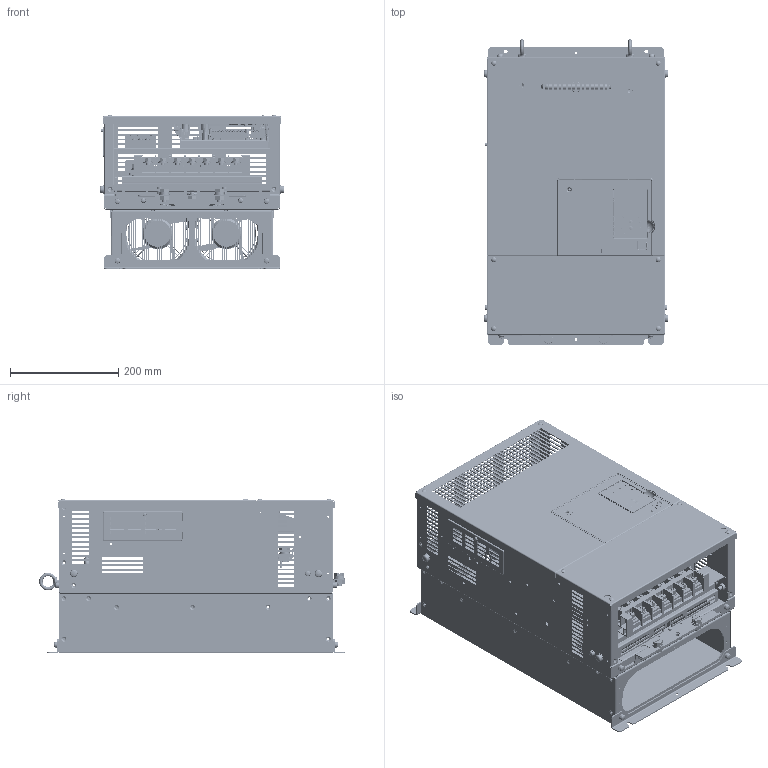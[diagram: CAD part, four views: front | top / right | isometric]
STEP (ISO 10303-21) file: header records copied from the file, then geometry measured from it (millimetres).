
FILE_DESCRIPTION((''),'2;1');
FILE_NAME('CIMR-DC4A0100AAA_ASM','2014-01-31T',('takeyama'),('YASKAWA ELECTRIC CORCORATION'),'PRO/ENGINEER BY PARAMETRIC TECHNOLOGY CORPORATION, 2011330','PRO/ENGINEER BY PARAMETRIC TECHNOLOGY CORPORATION, 2011330','');
FILE_SCHEMA(('AUTOMOTIVE_DESIGN { 1 0 10303 214 1 1 1 1 }'));
Products named in the file (10): CIMR-DC4A0100AAA_CASE; CIMR-DC4A0100AAA_BRACKET_1; CIMR-DC4A0100AAA_BRACKET_2; CIMR-DC4A0100AAA_FUSE; CIMR-DC4A0100AAA_DIGO; CIMR-DC4A0100AAA_ETC740520; CIMR-DC4A0100AAA_COVER1; CIMR-DC4A0100AAA_COVER2; CIMR-DC4A0100AAA_COVER3; CIMR-DC4A0100AAA_ASM
Assembly tree (9 placements, depth 2):
  CIMR-DC4A0100AAA_ASM
    CIMR-DC4A0100AAA_CASE
    CIMR-DC4A0100AAA_BRACKET_1
    CIMR-DC4A0100AAA_BRACKET_2
    CIMR-DC4A0100AAA_FUSE
    CIMR-DC4A0100AAA_DIGO
    CIMR-DC4A0100AAA_ETC740520
    CIMR-DC4A0100AAA_COVER1
    CIMR-DC4A0100AAA_COVER2
    CIMR-DC4A0100AAA_COVER3
Bounding box: 341.8 x 565.1 x 285.84 mm (x, y, z)
Volume: 5674173.8 mm3; surface area: 5842636.7 mm2
Topology: 38 solids, 46 shells, 26709 faces, 70823 edges, 44928 vertices
Faces by surface type: plane 17701, cylinder 5525, bspline 1235, cone 1188, sphere 541, torus 404, extrusion 115
Entity records: 1094945 total; most frequent: CARTESIAN_POINT 258525, ORIENTED_EDGE 141270, DIRECTION 128402, EDGE_CURVE 70635, VECTOR 53278, LINE 53163, VERTEX_POINT 44924, AXIS2_PLACEMENT_3D 37562
